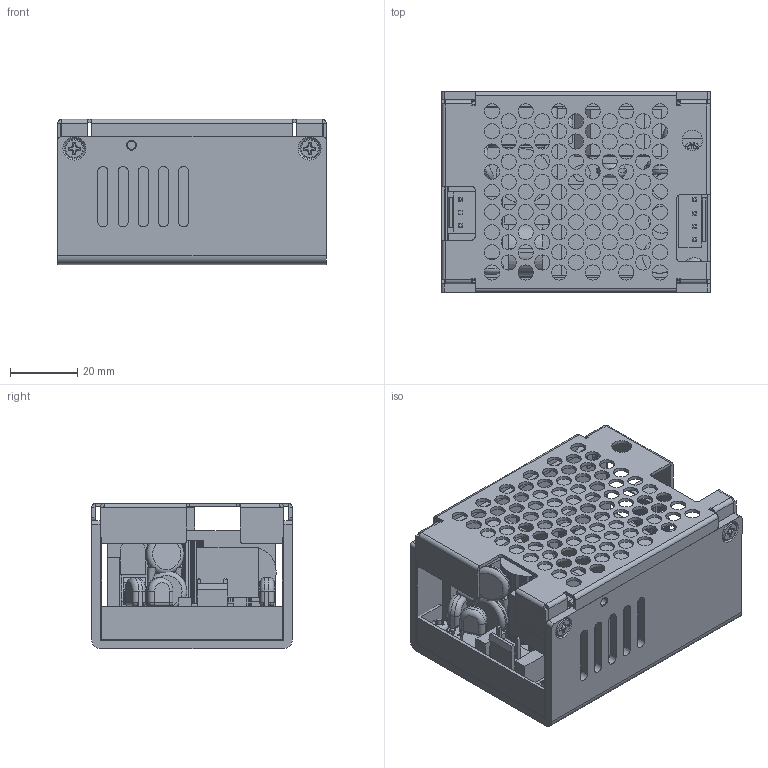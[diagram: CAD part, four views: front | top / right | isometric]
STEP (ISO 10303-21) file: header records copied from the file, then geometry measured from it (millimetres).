
FILE_DESCRIPTION(/* description */ (''),/* implementation_level */ '2;1');
FILE_NAME(/* name */ 'D:\Inventor\ARF130\ARF130E.stp',/* time_stamp */ '2020-06-24T14:43:22+08:00',/* author */ ('peter'),/* organization */ (''),/* preprocessor_version */ 'ST-DEVELOPER v15.2',/* originating_system */ 'Autodesk Inventor 2014',/* authorisation */ '');
FILE_SCHEMA (('AUTOMOTIVE_DESIGN { 1 0 10303 214 3 1 1 }'));
Length unit declared in the file: millimetre
Products named in the file (22): BOT CASE; M3 x 5R5 mm; R377ARF13001; MYLAR - BOT CASE; PCB; HEATSINK X2; TO-220FP; SCREW PH M3_5mm; PIN 3S-1; PIN 4; VR; C1; Y -- C; ARF130O for U_E; SCREW CH_W  M3_6mm; ARF130U; TOP CASE; SCREW PH M3_05mm; MYLAR _ 8x8x10 mm L TYPE; ARF130E
Bounding box: 80 x 59.7 x 43.2 mm (x, y, z)
Volume: 94598.8 mm3; surface area: 89075.8 mm2
Topology: 42 solids, 42 shells, 2244 faces, 5985 edges, 3891 vertices
Faces by surface type: plane 1570, cylinder 430, bspline 93, cone 89, torus 54, sphere 8
Full cylindrical faces by diameter (mm): 0.45 x3, 0.6 x12, 0.8 x4, 2.459 x22, 3 x9, 3.1 x4, 3.2 x9, 3.5 x4, 4 x4, 4.5 x98, 4.7 x4, 5.8 x8, 6 x1
Entity records: 55527 total; most frequent: CARTESIAN_POINT 10151, ORIENTED_EDGE 8984, DIRECTION 8681, EDGE_CURVE 4492, LINE 3713, VECTOR 3713, VERTEX_POINT 3035, AXIS2_PLACEMENT_3D 2484
